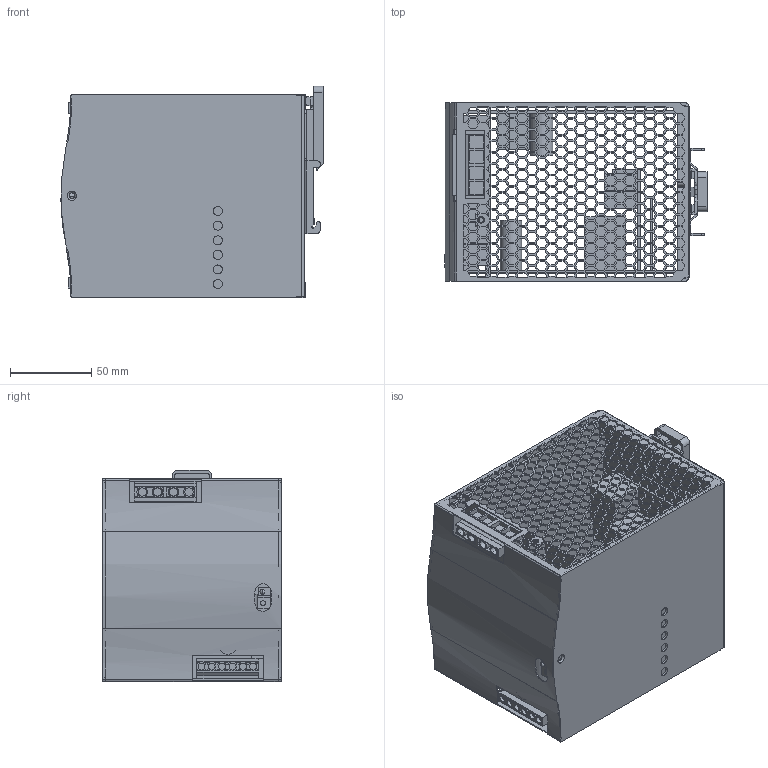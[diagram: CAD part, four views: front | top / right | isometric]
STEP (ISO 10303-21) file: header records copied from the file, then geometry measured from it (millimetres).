
FILE_DESCRIPTION(('Creo Elements/Direct Modeling STEP Export'),'2;1');
FILE_NAME('TDR-960.stp','2015-11-19T13:44:05',(''),(''),'PTC Creo Elements/Direct Modeling STEP processor for AP214 (Solid Model)','PTC Creo Elements/Direct Modeling 19.0 09-May-2014 (C) Parametric Technology GmbH','');
FILE_SCHEMA(('AUTOMOTIVE_DESIGN { 1 0 10303 214 1 1 1 1 }'));
Length unit declared in the file: millimetre
Products named in the file (8): ˋ°Ûy.1.1; ˋ°Ûy.1; PCB1.1.1.2.1; PCB1.1.1.2; m; pcb3; ÊWˆO; TDR-960
Assembly tree (7 placements, depth 3):
  TDR-960
    ÊWˆO
      pcb3
      m
      PCB1.1.1.2
      PCB1.1.1.2.1
    ˋ°Ûy.1
    ˋ°Ûy.1.1
Bounding box: 161.58 x 110.05 x 130.21 mm (x, y, z)
Volume: 398150.7 mm3; surface area: 347150.4 mm2
Topology: 4 solids, 8 shells, 5121 faces, 15057 edges, 10003 vertices
Faces by surface type: plane 4634, cylinder 359, cone 110, torus 10, bspline 8
Entity records: 169425 total; most frequent: CARTESIAN_POINT 31469, ORIENTED_EDGE 30114, DIRECTION 24967, EDGE_CURVE 15057, VECTOR 13915, LINE 13915, VERTEX_POINT 10003, EDGE_LOOP 6698
